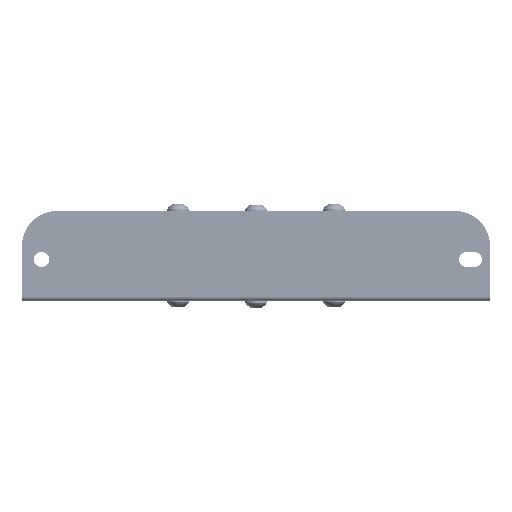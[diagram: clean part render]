
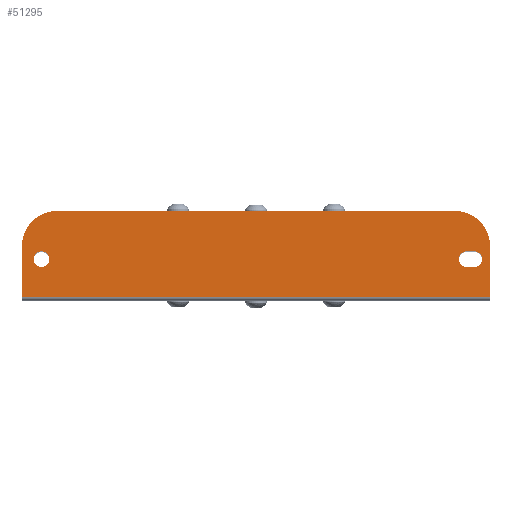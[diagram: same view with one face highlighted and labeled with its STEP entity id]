
A CAD part, top view. The second image highlights one B-rep face of the part: STEP entity #51295.
In plain terms, the highlighted planar face has unit normal (0, 0, 1) as drawn and (1, 0, 0) by its records, which use the part's own axes.
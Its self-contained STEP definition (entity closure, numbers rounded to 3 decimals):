
#889 = EDGE_LOOP ( 'NONE', ( #52781, #52784, #52788, #52791, #52795, #52798 ) ) ;
#893 = EDGE_LOOP ( 'NONE', ( #52756, #52760, #52763, #52767, #52770 ) ) ;
#896 = EDGE_LOOP ( 'NONE', ( #52774, #52777 ) ) ;
#2373 = VERTEX_POINT ( 'NONE', #61201 ) ;
#2387 = VERTEX_POINT ( 'NONE', #61200 ) ;
#2389 = VERTEX_POINT ( 'NONE', #92464 ) ;
#2392 = VERTEX_POINT ( 'NONE', #61196 ) ;
#2395 = VERTEX_POINT ( 'NONE', #92462 ) ;
#2404 = VERTEX_POINT ( 'NONE', #92468 ) ;
#3874 = CARTESIAN_POINT ( 'NONE',  ( 42.6, 1., -60. ) ) ;
#3875 = LINE ( 'NONE', #3874, #15528 ) ;
#3876 = CARTESIAN_POINT ( 'NONE',  ( 42.6, 10.62, 55. ) ) ;
#3877 = DIRECTION ( 'NONE',  ( 1., 0., 0. ) ) ;
#3878 = DIRECTION ( 'NONE',  ( 0., 0., -1. ) ) ;
#3879 = DIRECTION ( 'NONE',  ( 0., -1., 0. ) ) ;
#3880 = CARTESIAN_POINT ( 'NONE',  ( 42.6, 1., 60. ) ) ;
#3881 = CARTESIAN_POINT ( 'NONE',  ( 42.6, 14., -51. ) ) ;
#3882 = DIRECTION ( 'NONE',  ( -1., 0., 0. ) ) ;
#3883 = DIRECTION ( 'NONE',  ( 0., 0., 1. ) ) ;
#3884 = LINE ( 'NONE', #3890, #15567 ) ;
#3885 = LINE ( 'NONE', #3880, #15565 ) ;
#3886 = CARTESIAN_POINT ( 'NONE',  ( 42.6, 14., 51. ) ) ;
#3887 = DIRECTION ( 'NONE',  ( -1., 0., 0. ) ) ;
#3888 = DIRECTION ( 'NONE',  ( 0., 0., -1. ) ) ;
#3889 = DIRECTION ( 'NONE',  ( 0., -1., 0. ) ) ;
#3890 = CARTESIAN_POINT ( 'NONE',  ( 42.6, 1., -60. ) ) ;
#3891 = DIRECTION ( 'NONE',  ( 0., 0., 1. ) ) ;
#15520 = CIRCLE ( 'NONE', #15566, 9. ) ;
#15525 = CIRCLE ( 'NONE', #15529, 2. ) ;
#15528 = VECTOR ( 'NONE', #3879, 1000. ) ;
#15529 = AXIS2_PLACEMENT_3D ( 'NONE', #3876, #3877, #3878 ) ;
#15564 = CIRCLE ( 'NONE', #15568, 9. ) ;
#15565 = VECTOR ( 'NONE', #3889, 1000. ) ;
#15566 = AXIS2_PLACEMENT_3D ( 'NONE', #3881, #3882, #3883 ) ;
#15567 = VECTOR ( 'NONE', #3891, 1000. ) ;
#15568 = AXIS2_PLACEMENT_3D ( 'NONE', #3886, #3887, #3888 ) ;
#19792 = EDGE_CURVE ( 'NONE', #47972, #47966, #15525, .T. ) ;
#19793 = EDGE_CURVE ( 'NONE', #2389, #2395, #3875, .T. ) ;
#19794 = EDGE_CURVE ( 'NONE', #48070, #2389, #15520, .T. ) ;
#19795 = EDGE_CURVE ( 'NONE', #2373, #48086, #15564, .T. ) ;
#19796 = EDGE_CURVE ( 'NONE', #2373, #2404, #3885, .T. ) ;
#19797 = EDGE_CURVE ( 'NONE', #2395, #2404, #3884, .T. ) ;
#47928 = VERTEX_POINT ( 'NONE', #100729 ) ;
#47932 = VERTEX_POINT ( 'NONE', #100730 ) ;
#47966 = VERTEX_POINT ( 'NONE', #100737 ) ;
#47972 = VERTEX_POINT ( 'NONE', #100735 ) ;
#48070 = VERTEX_POINT ( 'NONE', #100756 ) ;
#48086 = VERTEX_POINT ( 'NONE', #100759 ) ;
#48194 = VERTEX_POINT ( 'NONE', #100784 ) ;
#51295 = ADVANCED_FACE ( 'NONE', ( #64883, #64892, #64893 ), #64894, .F. ) ;
#52756 = ORIENTED_EDGE ( 'NONE', *, *, #53168, .F. ) ;
#52760 = ORIENTED_EDGE ( 'NONE', *, *, #52972, .F. ) ;
#52763 = ORIENTED_EDGE ( 'NONE', *, *, #53170, .F. ) ;
#52767 = ORIENTED_EDGE ( 'NONE', *, *, #53172, .F. ) ;
#52770 = ORIENTED_EDGE ( 'NONE', *, *, #53175, .F. ) ;
#52774 = ORIENTED_EDGE ( 'NONE', *, *, #19792, .F. ) ;
#52777 = ORIENTED_EDGE ( 'NONE', *, *, #52990, .F. ) ;
#52781 = ORIENTED_EDGE ( 'NONE', *, *, #19793, .F. ) ;
#52784 = ORIENTED_EDGE ( 'NONE', *, *, #19794, .F. ) ;
#52788 = ORIENTED_EDGE ( 'NONE', *, *, #53051, .T. ) ;
#52791 = ORIENTED_EDGE ( 'NONE', *, *, #19795, .F. ) ;
#52795 = ORIENTED_EDGE ( 'NONE', *, *, #19796, .T. ) ;
#52798 = ORIENTED_EDGE ( 'NONE', *, *, #19797, .F. ) ;
#52972 = EDGE_CURVE ( 'NONE', #47928, #47932, #67543, .T. ) ;
#52990 = EDGE_CURVE ( 'NONE', #47966, #47972, #67556, .T. ) ;
#53051 = EDGE_CURVE ( 'NONE', #48070, #48086, #70563, .T. ) ;
#53168 = EDGE_CURVE ( 'NONE', #47932, #2387, #70714, .T. ) ;
#53170 = EDGE_CURVE ( 'NONE', #48194, #47928, #67668, .T. ) ;
#53172 = EDGE_CURVE ( 'NONE', #2392, #48194, #70722, .T. ) ;
#53175 = EDGE_CURVE ( 'NONE', #2387, #2392, #67669, .T. ) ;
#59631 = AXIS2_PLACEMENT_3D ( 'NONE', #64891, #64881, #64895 ) ;
#61196 = CARTESIAN_POINT ( 'NONE',  ( 42.6, 8.62, -54. ) ) ;
#61200 = CARTESIAN_POINT ( 'NONE',  ( 42.6, 12.62, -54. ) ) ;
#61201 = CARTESIAN_POINT ( 'NONE',  ( 42.6, 14., 60. ) ) ;
#64881 = DIRECTION ( 'NONE',  ( -1., 0., 0. ) ) ;
#64883 = FACE_BOUND ( 'NONE', #893, .T. ) ;
#64891 = CARTESIAN_POINT ( 'NONE',  ( 42.6, 1., -60. ) ) ;
#64892 = FACE_BOUND ( 'NONE', #896, .T. ) ;
#64893 = FACE_OUTER_BOUND ( 'NONE', #889, .T. ) ;
#64894 = PLANE ( 'NONE',  #59631 ) ;
#64895 = DIRECTION ( 'NONE',  ( 0., 0., 1. ) ) ;
#67543 = CIRCLE ( 'NONE', #67546, 2. ) ;
#67546 = AXIS2_PLACEMENT_3D ( 'NONE', #70467, #70468, #70469 ) ;
#67556 = CIRCLE ( 'NONE', #67558, 2. ) ;
#67558 = AXIS2_PLACEMENT_3D ( 'NONE', #70491, #70492, #70493 ) ;
#67595 = VECTOR ( 'NONE', #70572, 1000. ) ;
#67665 = VECTOR ( 'NONE', #70720, 1000. ) ;
#67666 = VECTOR ( 'NONE', #70727, 1000. ) ;
#67668 = CIRCLE ( 'NONE', #67670, 2. ) ;
#67669 = CIRCLE ( 'NONE', #67671, 2. ) ;
#67670 = AXIS2_PLACEMENT_3D ( 'NONE', #70723, #70724, #70725 ) ;
#67671 = AXIS2_PLACEMENT_3D ( 'NONE', #70731, #70732, #70733 ) ;
#70467 = CARTESIAN_POINT ( 'NONE',  ( 42.6, 10.62, -56. ) ) ;
#70468 = DIRECTION ( 'NONE',  ( 1., 0., 0. ) ) ;
#70469 = DIRECTION ( 'NONE',  ( 0., 0., -1. ) ) ;
#70491 = CARTESIAN_POINT ( 'NONE',  ( 42.6, 10.62, 55. ) ) ;
#70492 = DIRECTION ( 'NONE',  ( 1., 0., 0. ) ) ;
#70493 = DIRECTION ( 'NONE',  ( 0., 0., -1. ) ) ;
#70561 = CARTESIAN_POINT ( 'NONE',  ( 42.6, 23., -60. ) ) ;
#70563 = LINE ( 'NONE', #70561, #67595 ) ;
#70572 = DIRECTION ( 'NONE',  ( 0., 0., 1. ) ) ;
#70714 = LINE ( 'NONE', #70715, #67665 ) ;
#70715 = CARTESIAN_POINT ( 'NONE',  ( 42.6, 12.62, -54. ) ) ;
#70719 = CARTESIAN_POINT ( 'NONE',  ( 42.6, 8.62, -56. ) ) ;
#70720 = DIRECTION ( 'NONE',  ( 0., 0., 1. ) ) ;
#70722 = LINE ( 'NONE', #70719, #67666 ) ;
#70723 = CARTESIAN_POINT ( 'NONE',  ( 42.6, 10.62, -56. ) ) ;
#70724 = DIRECTION ( 'NONE',  ( 1., 0., 0. ) ) ;
#70725 = DIRECTION ( 'NONE',  ( 0., 0., -1. ) ) ;
#70727 = DIRECTION ( 'NONE',  ( 0., 0., -1. ) ) ;
#70731 = CARTESIAN_POINT ( 'NONE',  ( 42.6, 10.62, -54. ) ) ;
#70732 = DIRECTION ( 'NONE',  ( 1., 0., 0. ) ) ;
#70733 = DIRECTION ( 'NONE',  ( 0., 0., -1. ) ) ;
#92462 = CARTESIAN_POINT ( 'NONE',  ( 42.6, 1., -60. ) ) ;
#92464 = CARTESIAN_POINT ( 'NONE',  ( 42.6, 14., -60. ) ) ;
#92468 = CARTESIAN_POINT ( 'NONE',  ( 42.6, 1., 60. ) ) ;
#100729 = CARTESIAN_POINT ( 'NONE',  ( 42.6, 10.62, -58. ) ) ;
#100730 = CARTESIAN_POINT ( 'NONE',  ( 42.6, 12.62, -56. ) ) ;
#100735 = CARTESIAN_POINT ( 'NONE',  ( 42.6, 10.62, 53. ) ) ;
#100737 = CARTESIAN_POINT ( 'NONE',  ( 42.6, 10.62, 57. ) ) ;
#100756 = CARTESIAN_POINT ( 'NONE',  ( 42.6, 23., -51. ) ) ;
#100759 = CARTESIAN_POINT ( 'NONE',  ( 42.6, 23., 51. ) ) ;
#100784 = CARTESIAN_POINT ( 'NONE',  ( 42.6, 8.62, -56. ) ) ;
